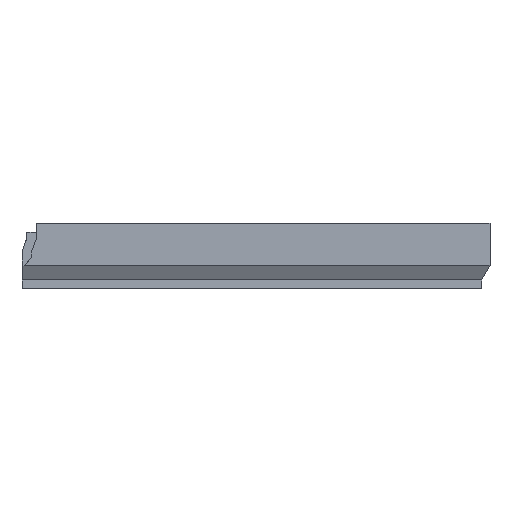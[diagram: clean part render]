
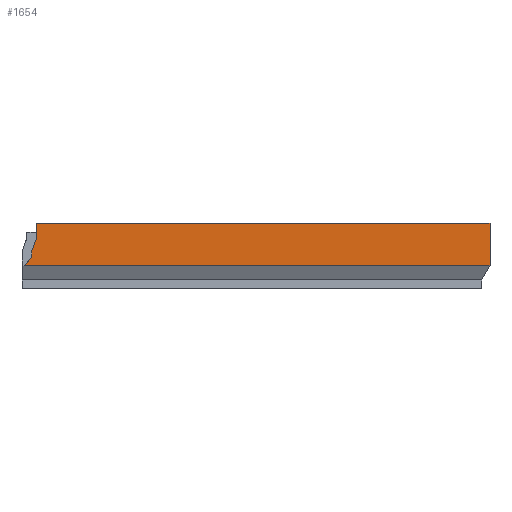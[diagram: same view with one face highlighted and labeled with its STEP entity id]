
A CAD part, front view. The second image highlights one B-rep face of the part: STEP entity #1654.
In plain terms, the highlighted planar face has unit normal (0, -1, 0).
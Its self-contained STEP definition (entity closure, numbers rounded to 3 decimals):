
#309 = PLANE('',#310);
#310 = AXIS2_PLACEMENT_3D('',#311,#312,#313);
#311 = CARTESIAN_POINT('',(6.1,-177.5,23.35));
#312 = DIRECTION('',(-1.,0.,0.));
#313 = DIRECTION('',(0.,-1.,0.));
#408 = PLANE('',#409);
#409 = AXIS2_PLACEMENT_3D('',#410,#411,#412);
#410 = CARTESIAN_POINT('',(0.,-3.046,27.4));
#411 = DIRECTION('',(0.,0.,1.));
#412 = DIRECTION('',(1.,0.,-0.));
#496 = VERTEX_POINT('',#497);
#497 = CARTESIAN_POINT('',(6.1,-179.2,21.));
#511 = PLANE('',#512);
#512 = AXIS2_PLACEMENT_3D('',#513,#514,#515);
#513 = CARTESIAN_POINT('',(6.1,-177.5,21.));
#514 = DIRECTION('',(-0.94,0.,0.342));
#515 = DIRECTION('',(0.,-1.,0.));
#523 = EDGE_CURVE('',#496,#524,#526,.T.);
#524 = VERTEX_POINT('',#525);
#525 = CARTESIAN_POINT('',(6.1,-179.2,27.4));
#526 = SURFACE_CURVE('',#527,(#531,#537),.PCURVE_S1.);
#527 = LINE('',#528,#529);
#528 = CARTESIAN_POINT('',(6.1,-179.2,24.15));
#529 = VECTOR('',#530,1.);
#530 = DIRECTION('',(0.,-0.,1.));
#531 = PCURVE('',#309,#532);
#532 = DEFINITIONAL_REPRESENTATION('',(#533),#536);
#533 = B_SPLINE_CURVE_WITH_KNOTS('',1,(#534,#535),.UNSPECIFIED.,.F.,.F.,
  (2,2),(-3.15,3.25),.PIECEWISE_BEZIER_KNOTS.);
#534 = CARTESIAN_POINT('',(1.7,-2.35));
#535 = CARTESIAN_POINT('',(1.7,4.05));
#536 = ( GEOMETRIC_REPRESENTATION_CONTEXT(2) 
PARAMETRIC_REPRESENTATION_CONTEXT() REPRESENTATION_CONTEXT('2D SPACE',''
  ) );
#537 = PCURVE('',#538,#543);
#538 = PLANE('',#539);
#539 = AXIS2_PLACEMENT_3D('',#540,#541,#542);
#540 = CARTESIAN_POINT('',(-195.2,-179.2,24.95));
#541 = DIRECTION('',(0.,1.,0.));
#542 = DIRECTION('',(1.,0.,0.));
#543 = DEFINITIONAL_REPRESENTATION('',(#544),#547);
#544 = B_SPLINE_CURVE_WITH_KNOTS('',1,(#545,#546),.UNSPECIFIED.,.F.,.F.,
  (2,2),(-3.15,3.25),.PIECEWISE_BEZIER_KNOTS.);
#545 = CARTESIAN_POINT('',(201.3,3.95));
#546 = CARTESIAN_POINT('',(201.3,-2.45));
#547 = ( GEOMETRIC_REPRESENTATION_CONTEXT(2) 
PARAMETRIC_REPRESENTATION_CONTEXT() REPRESENTATION_CONTEXT('2D SPACE',''
  ) );
#1328 = PLANE('',#1329);
#1329 = AXIS2_PLACEMENT_3D('',#1330,#1331,#1332);
#1330 = CARTESIAN_POINT('',(195.2,-179.2,24.95));
#1331 = DIRECTION('',(-1.,0.,0.));
#1332 = DIRECTION('',(0.,1.,0.));
#1432 = EDGE_CURVE('',#524,#1433,#1435,.T.);
#1433 = VERTEX_POINT('',#1434);
#1434 = CARTESIAN_POINT('',(195.2,-179.2,27.4));
#1435 = SURFACE_CURVE('',#1436,(#1440,#1447),.PCURVE_S1.);
#1436 = LINE('',#1437,#1438);
#1437 = CARTESIAN_POINT('',(-195.2,-179.2,27.4));
#1438 = VECTOR('',#1439,1.);
#1439 = DIRECTION('',(1.,0.,0.));
#1440 = PCURVE('',#408,#1441);
#1441 = DEFINITIONAL_REPRESENTATION('',(#1442),#1446);
#1442 = LINE('',#1443,#1444);
#1443 = CARTESIAN_POINT('',(-195.2,-176.154));
#1444 = VECTOR('',#1445,1.);
#1445 = DIRECTION('',(1.,0.));
#1446 = ( GEOMETRIC_REPRESENTATION_CONTEXT(2) 
PARAMETRIC_REPRESENTATION_CONTEXT() REPRESENTATION_CONTEXT('2D SPACE',''
  ) );
#1447 = PCURVE('',#538,#1448);
#1448 = DEFINITIONAL_REPRESENTATION('',(#1449),#1453);
#1449 = LINE('',#1450,#1451);
#1450 = CARTESIAN_POINT('',(0.,-2.45));
#1451 = VECTOR('',#1452,1.);
#1452 = DIRECTION('',(1.,0.));
#1453 = ( GEOMETRIC_REPRESENTATION_CONTEXT(2) 
PARAMETRIC_REPRESENTATION_CONTEXT() REPRESENTATION_CONTEXT('2D SPACE',''
  ) );
#1525 = PLANE('',#1526);
#1526 = AXIS2_PLACEMENT_3D('',#1527,#1528,#1529);
#1527 = CARTESIAN_POINT('',(4.1,-177.5,13.));
#1528 = DIRECTION('',(-0.73,0.,0.684));
#1529 = DIRECTION('',(0.,-1.,0.));
#1550 = PLANE('',#1551);
#1551 = AXIS2_PLACEMENT_3D('',#1552,#1553,#1554);
#1552 = CARTESIAN_POINT('',(4.1,-177.5,15.5));
#1553 = DIRECTION('',(-1.,0.,0.));
#1554 = DIRECTION('',(0.,-1.,0.));
#1654 = ADVANCED_FACE('',(#1655),#538,.F.);
#1655 = FACE_BOUND('',#1656,.F.);
#1656 = EDGE_LOOP('',(#1657,#1680,#1708,#1729,#1750,#1769,#1770));
#1657 = ORIENTED_EDGE('',*,*,#1658,.F.);
#1658 = EDGE_CURVE('',#1659,#1433,#1661,.T.);
#1659 = VERTEX_POINT('',#1660);
#1660 = CARTESIAN_POINT('',(195.2,-179.2,9.762));
#1661 = SURFACE_CURVE('',#1662,(#1666,#1673),.PCURVE_S1.);
#1662 = LINE('',#1663,#1664);
#1663 = CARTESIAN_POINT('',(195.2,-179.2,9.762));
#1664 = VECTOR('',#1665,1.);
#1665 = DIRECTION('',(0.,0.,1.));
#1666 = PCURVE('',#538,#1667);
#1667 = DEFINITIONAL_REPRESENTATION('',(#1668),#1672);
#1668 = LINE('',#1669,#1670);
#1669 = CARTESIAN_POINT('',(390.4,15.188));
#1670 = VECTOR('',#1671,1.);
#1671 = DIRECTION('',(0.,-1.));
#1672 = ( GEOMETRIC_REPRESENTATION_CONTEXT(2) 
PARAMETRIC_REPRESENTATION_CONTEXT() REPRESENTATION_CONTEXT('2D SPACE',''
  ) );
#1673 = PCURVE('',#1328,#1674);
#1674 = DEFINITIONAL_REPRESENTATION('',(#1675),#1679);
#1675 = LINE('',#1676,#1677);
#1676 = CARTESIAN_POINT('',(0.,15.188));
#1677 = VECTOR('',#1678,1.);
#1678 = DIRECTION('',(0.,-1.));
#1679 = ( GEOMETRIC_REPRESENTATION_CONTEXT(2) 
PARAMETRIC_REPRESENTATION_CONTEXT() REPRESENTATION_CONTEXT('2D SPACE',''
  ) );
#1680 = ORIENTED_EDGE('',*,*,#1681,.F.);
#1681 = EDGE_CURVE('',#1682,#1659,#1684,.T.);
#1682 = VERTEX_POINT('',#1683);
#1683 = CARTESIAN_POINT('',(1.065,-179.2,9.762));
#1684 = SURFACE_CURVE('',#1685,(#1689,#1696),.PCURVE_S1.);
#1685 = LINE('',#1686,#1687);
#1686 = CARTESIAN_POINT('',(-195.2,-179.2,9.762));
#1687 = VECTOR('',#1688,1.);
#1688 = DIRECTION('',(1.,0.,0.));
#1689 = PCURVE('',#538,#1690);
#1690 = DEFINITIONAL_REPRESENTATION('',(#1691),#1695);
#1691 = LINE('',#1692,#1693);
#1692 = CARTESIAN_POINT('',(0.,15.188));
#1693 = VECTOR('',#1694,1.);
#1694 = DIRECTION('',(1.,0.));
#1695 = ( GEOMETRIC_REPRESENTATION_CONTEXT(2) 
PARAMETRIC_REPRESENTATION_CONTEXT() REPRESENTATION_CONTEXT('2D SPACE',''
  ) );
#1696 = PCURVE('',#1697,#1702);
#1697 = PLANE('',#1698);
#1698 = AXIS2_PLACEMENT_3D('',#1699,#1700,#1701);
#1699 = CARTESIAN_POINT('',(0.,-177.45,6.731));
#1700 = DIRECTION('',(0.,-0.866,-0.5));
#1701 = DIRECTION('',(1.,0.,0.));
#1702 = DEFINITIONAL_REPRESENTATION('',(#1703),#1707);
#1703 = LINE('',#1704,#1705);
#1704 = CARTESIAN_POINT('',(-195.2,3.5));
#1705 = VECTOR('',#1706,1.);
#1706 = DIRECTION('',(1.,0.));
#1707 = ( GEOMETRIC_REPRESENTATION_CONTEXT(2) 
PARAMETRIC_REPRESENTATION_CONTEXT() REPRESENTATION_CONTEXT('2D SPACE',''
  ) );
#1708 = ORIENTED_EDGE('',*,*,#1709,.T.);
#1709 = EDGE_CURVE('',#1682,#1710,#1712,.T.);
#1710 = VERTEX_POINT('',#1711);
#1711 = CARTESIAN_POINT('',(4.1,-179.2,13.));
#1712 = SURFACE_CURVE('',#1713,(#1717,#1723),.PCURVE_S1.);
#1713 = LINE('',#1714,#1715);
#1714 = CARTESIAN_POINT('',(-39.533,-179.2,-33.541));
#1715 = VECTOR('',#1716,1.);
#1716 = DIRECTION('',(0.684,-0.,0.73));
#1717 = PCURVE('',#538,#1718);
#1718 = DEFINITIONAL_REPRESENTATION('',(#1719),#1722);
#1719 = B_SPLINE_CURVE_WITH_KNOTS('',1,(#1720,#1721),.UNSPECIFIED.,.F.,
  .F.,(2,2),(59.358,63.796),.PIECEWISE_BEZIER_KNOTS.);
#1720 = CARTESIAN_POINT('',(196.265,15.188));
#1721 = CARTESIAN_POINT('',(199.3,11.95));
#1722 = ( GEOMETRIC_REPRESENTATION_CONTEXT(2) 
PARAMETRIC_REPRESENTATION_CONTEXT() REPRESENTATION_CONTEXT('2D SPACE',''
  ) );
#1723 = PCURVE('',#1525,#1724);
#1724 = DEFINITIONAL_REPRESENTATION('',(#1725),#1728);
#1725 = B_SPLINE_CURVE_WITH_KNOTS('',1,(#1726,#1727),.UNSPECIFIED.,.F.,
  .F.,(2,2),(59.358,63.796),.PIECEWISE_BEZIER_KNOTS.);
#1726 = CARTESIAN_POINT('',(1.7,-4.438));
#1727 = CARTESIAN_POINT('',(1.7,0.));
#1728 = ( GEOMETRIC_REPRESENTATION_CONTEXT(2) 
PARAMETRIC_REPRESENTATION_CONTEXT() REPRESENTATION_CONTEXT('2D SPACE',''
  ) );
#1729 = ORIENTED_EDGE('',*,*,#1730,.T.);
#1730 = EDGE_CURVE('',#1710,#1731,#1733,.T.);
#1731 = VERTEX_POINT('',#1732);
#1732 = CARTESIAN_POINT('',(4.1,-179.2,15.5));
#1733 = SURFACE_CURVE('',#1734,(#1738,#1744),.PCURVE_S1.);
#1734 = LINE('',#1735,#1736);
#1735 = CARTESIAN_POINT('',(4.1,-179.2,20.225));
#1736 = VECTOR('',#1737,1.);
#1737 = DIRECTION('',(0.,-0.,1.));
#1738 = PCURVE('',#538,#1739);
#1739 = DEFINITIONAL_REPRESENTATION('',(#1740),#1743);
#1740 = B_SPLINE_CURVE_WITH_KNOTS('',1,(#1741,#1742),.UNSPECIFIED.,.F.,
  .F.,(2,2),(-7.225,-4.725),.PIECEWISE_BEZIER_KNOTS.);
#1741 = CARTESIAN_POINT('',(199.3,11.95));
#1742 = CARTESIAN_POINT('',(199.3,9.45));
#1743 = ( GEOMETRIC_REPRESENTATION_CONTEXT(2) 
PARAMETRIC_REPRESENTATION_CONTEXT() REPRESENTATION_CONTEXT('2D SPACE',''
  ) );
#1744 = PCURVE('',#1550,#1745);
#1745 = DEFINITIONAL_REPRESENTATION('',(#1746),#1749);
#1746 = B_SPLINE_CURVE_WITH_KNOTS('',1,(#1747,#1748),.UNSPECIFIED.,.F.,
  .F.,(2,2),(-7.225,-4.725),.PIECEWISE_BEZIER_KNOTS.);
#1747 = CARTESIAN_POINT('',(1.7,-2.5));
#1748 = CARTESIAN_POINT('',(1.7,0.));
#1749 = ( GEOMETRIC_REPRESENTATION_CONTEXT(2) 
PARAMETRIC_REPRESENTATION_CONTEXT() REPRESENTATION_CONTEXT('2D SPACE',''
  ) );
#1750 = ORIENTED_EDGE('',*,*,#1751,.T.);
#1751 = EDGE_CURVE('',#1731,#496,#1752,.T.);
#1752 = SURFACE_CURVE('',#1753,(#1757,#1763),.PCURVE_S1.);
#1753 = LINE('',#1754,#1755);
#1754 = CARTESIAN_POINT('',(-5.02,-179.2,-9.581));
#1755 = VECTOR('',#1756,1.);
#1756 = DIRECTION('',(0.342,-0.,0.94));
#1757 = PCURVE('',#538,#1758);
#1758 = DEFINITIONAL_REPRESENTATION('',(#1759),#1762);
#1759 = B_SPLINE_CURVE_WITH_KNOTS('',1,(#1760,#1761),.UNSPECIFIED.,.F.,
  .F.,(2,2),(26.688,32.54),.PIECEWISE_BEZIER_KNOTS.);
#1760 = CARTESIAN_POINT('',(199.3,9.45));
#1761 = CARTESIAN_POINT('',(201.3,3.95));
#1762 = ( GEOMETRIC_REPRESENTATION_CONTEXT(2) 
PARAMETRIC_REPRESENTATION_CONTEXT() REPRESENTATION_CONTEXT('2D SPACE',''
  ) );
#1763 = PCURVE('',#511,#1764);
#1764 = DEFINITIONAL_REPRESENTATION('',(#1765),#1768);
#1765 = B_SPLINE_CURVE_WITH_KNOTS('',1,(#1766,#1767),.UNSPECIFIED.,.F.,
  .F.,(2,2),(26.688,32.54),.PIECEWISE_BEZIER_KNOTS.);
#1766 = CARTESIAN_POINT('',(1.7,-5.852));
#1767 = CARTESIAN_POINT('',(1.7,0.));
#1768 = ( GEOMETRIC_REPRESENTATION_CONTEXT(2) 
PARAMETRIC_REPRESENTATION_CONTEXT() REPRESENTATION_CONTEXT('2D SPACE',''
  ) );
#1769 = ORIENTED_EDGE('',*,*,#523,.T.);
#1770 = ORIENTED_EDGE('',*,*,#1432,.T.);
